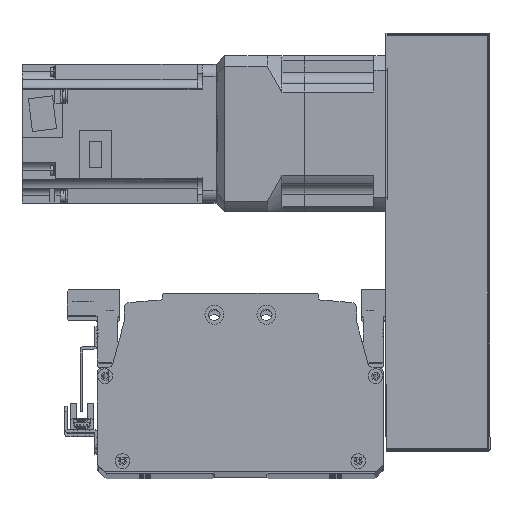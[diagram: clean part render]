
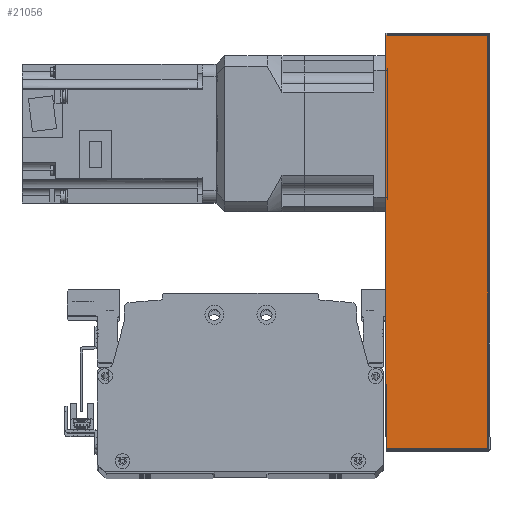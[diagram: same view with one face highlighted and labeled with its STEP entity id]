
A CAD part, top view. The second image highlights one B-rep face of the part: STEP entity #21056.
In plain terms, the highlighted planar face has unit normal (0, 0, 1) as drawn and (0, -1, 0) by its records, which use the part's own axes.
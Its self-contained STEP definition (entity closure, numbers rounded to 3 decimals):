
#574=PLANE('',#22972);
#1692=LINE('',#33493,#3352);
#1718=LINE('',#33589,#3378);
#1719=LINE('',#33597,#3379);
#1726=LINE('',#33622,#3386);
#3352=VECTOR('',#27263,10.);
#3378=VECTOR('',#27381,10.);
#3379=VECTOR('',#27392,10.);
#3386=VECTOR('',#27427,10.);
#5435=FACE_OUTER_BOUND('',#6927,.T.);
#6927=EDGE_LOOP('',(#16548,#16549,#16550,#16551));
#9841=VERTEX_POINT('',#33490);
#9842=VERTEX_POINT('',#33492);
#9866=VERTEX_POINT('',#33585);
#9867=VERTEX_POINT('',#33591);
#12224=EDGE_CURVE('',#9842,#9841,#1692,.T.);
#12274=EDGE_CURVE('',#9841,#9866,#1718,.T.);
#12278=EDGE_CURVE('',#9867,#9842,#1719,.T.);
#12291=EDGE_CURVE('',#9866,#9867,#1726,.T.);
#16548=ORIENTED_EDGE('',*,*,#12274,.T.);
#16549=ORIENTED_EDGE('',*,*,#12291,.T.);
#16550=ORIENTED_EDGE('',*,*,#12278,.T.);
#16551=ORIENTED_EDGE('',*,*,#12224,.T.);
#21056=ADVANCED_FACE('',(#5435),#574,.F.);
#22972=AXIS2_PLACEMENT_3D('',#33628,#27437,#27438);
#27263=DIRECTION('',(1.,0.,0.));
#27381=DIRECTION('',(0.,0.,1.));
#27392=DIRECTION('',(0.,0.,-1.));
#27427=DIRECTION('',(-1.,0.,0.));
#27437=DIRECTION('center_axis',(0.,1.,0.));
#27438=DIRECTION('ref_axis',(1.,0.,0.));
#33490=CARTESIAN_POINT('',(119.5,-51.,-30.));
#33492=CARTESIAN_POINT('',(-119.5,-51.,-30.));
#33493=CARTESIAN_POINT('',(120.5,-51.,-30.));
#33585=CARTESIAN_POINT('',(119.5,-51.,29.));
#33589=CARTESIAN_POINT('',(119.5,-51.,0.));
#33591=CARTESIAN_POINT('',(-119.5,-51.,29.));
#33597=CARTESIAN_POINT('',(-119.5,-51.,0.));
#33622=CARTESIAN_POINT('',(-60.25,-51.,29.));
#33628=CARTESIAN_POINT('Origin',(-120.5,-51.,0.));
